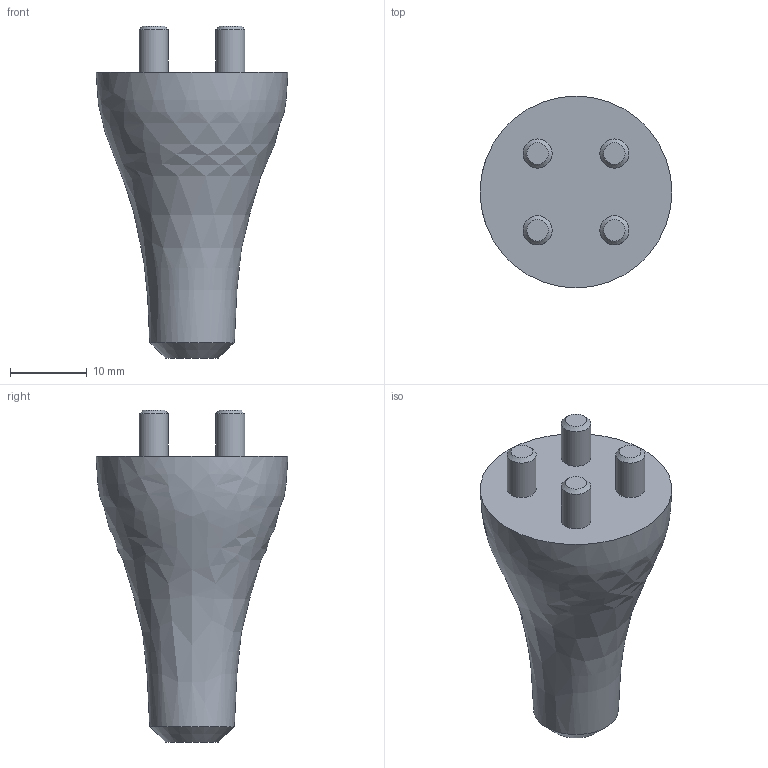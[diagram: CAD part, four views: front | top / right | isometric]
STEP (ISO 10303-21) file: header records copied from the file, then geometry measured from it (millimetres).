
FILE_DESCRIPTION(('STEP AP242 Edition 2','STEP AP242 Edition 2''CAx-IF Rec.Pracs.---Representation and Presentation of Product Manufacturing Information (PMI)---4.0---2014-10-13','STEP AP242 Edition 2''CAx-IF Rec.Pracs.---Representation and Presentation of Product Manufacturing Information (PMI)---4.0---2014-10-13''CAx-IF Rec.Pracs.---3D Tessellated Geometry---0.4---2014-09-14','STEP AP242 Edition 2''CAx-IF Rec.Pracs.---Representation and Presentation of Product Manufacturing Information (PMI)---4.0---2014-10-13''CAx-IF Rec.Pracs.---3D Tessellated Geometry---0.4---2014-09-14''2;1','STEP AP242 Edition 2''CAx-IF Rec.Pracs.---Representation and Presentation of Product Manufacturing Information (PMI)---4.0---2014-10-13''CAx-IF Rec.Pracs.---3D Tessellated Geometry---0.4---2014-09-14''2;1''CAx-IF Rec.Pracs.---User Defined Attributes---1.5---2016-08-15'),'2;1');
FILE_NAME('/vol/tmp/translate-1775843114321225475/Draw Bot V2 - R - L1 Support Leg.step','2026-03-21T23:30:43',(''),(''),'ST-DEVELOPER v20','ONSHAPE BY PTC INC, 1.212',' ');
FILE_SCHEMA(('AP242_MANAGED_MODEL_BASED_3D_ENGINEERING_MIM_LF { 1 0 10303 442 3 1 4 }'));
Length unit declared in the file: millimetre
Products named in the file (1): R - L1 Support Leg
Bounding box: 25 x 25 x 43.25 mm (x, y, z)
Volume: 9012.4 mm3; surface area: 2809.2 mm2
Topology: 1 solids, 1 shells, 16 faces, 27 edges, 17 vertices
Faces by surface type: plane 6, cone 5, cylinder 4, bspline 1
Full cylindrical faces by diameter (mm): 3.8 x4
Entity records: 415 total; most frequent: CARTESIAN_POINT 132, DIRECTION 60, ORIENTED_EDGE 30, EDGE_LOOP 30, FACE_BOUND 30, AXIS2_PLACEMENT_3D 30, ADVANCED_FACE 16, EDGE_CURVE 15
